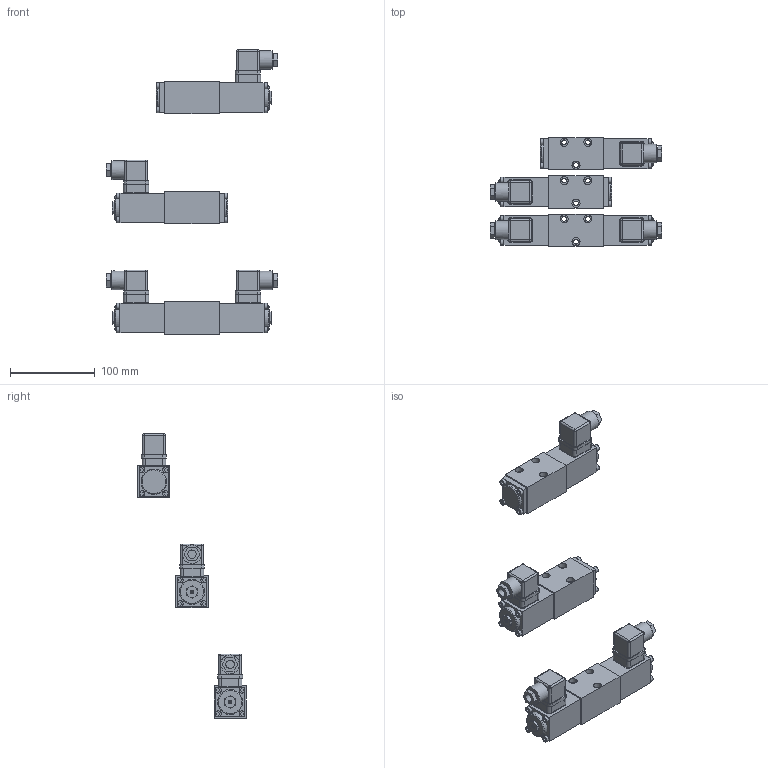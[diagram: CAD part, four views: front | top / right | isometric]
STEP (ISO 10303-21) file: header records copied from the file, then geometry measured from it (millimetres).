
FILE_DESCRIPTION(('Bauteilbeschreibung','HiCAD-Model','HiCAD-STEP-TRANSLATION','Bauteilbeschreibung'),'2;1');
FILE_NAME('D:/BPW_4_4.STP','2006-08-21T10:13:54+00:00',('Konstrukteur'),('Konstrukteur Firma GmbH'),'HiCAD3 V1210 STEP 1.6.2005','HiCAD3 V1210','confidential');
FILE_SCHEMA(('AUTOMOTIVE_DESIGN { 1 2 10303 214 0 1 1 1 }'));
Length unit declared in the file: millimetre
Products named in the file (72): BPW_4_4; BPW_4D4  ; A693E5FB; A837746D; IN6KTM4; IN6KTM40; IN6KTM41; IN6KTM42; IN6KTM43; IN6KTM44; IN6KTM45; IN6KTM46; IN6KTM47; IN6KTM48; A1D11AE3; A86115F3; A2DC75BC; CA9517B3; CA9517B30; DICHTUNG; A1D11AE30; A86115F30; A2DC75BC0; CA9517B31; CA9517B32; DICHTUNG0; D82DEE49; D82DEE490; BPWS4Z41A; EB87732A; A837746D0; IN6KTM49; IN6KTM410; IN6KTM411; IN6KTM412; IN6KTM413; A1D11AE31; A86115F31; A2DC75BC1; CA9517B33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
Assembly tree (71 placements, depth 6):
  BPW_4_4
    BPW_4D4  
      A693E5FB
        A837746D
        IN6KTM4
          IN6KTM40
          IN6KTM41
          IN6KTM42
          IN6KTM43
        IN6KTM44
          IN6KTM45
          IN6KTM46
          IN6KTM47
          IN6KTM48
        A1D11AE3
          A86115F3
          A2DC75BC
          CA9517B3
          CA9517B30
            DICHTUNG
        A1D11AE30
          A86115F30
          A2DC75BC0
          CA9517B31
          CA9517B32
            DICHTUNG0
        D82DEE49
        D82DEE490
    BPWS4Z41A
      EB87732A
        A837746D0
        IN6KTM49
          IN6KTM410
          IN6KTM411
          IN6KTM412
          IN6KTM413
        A1D11AE31
          A86115F31
          A2DC75BC1
          CA9517B33
          CA9517B34
            DICHTUNG1
        D82DEE491
        AA75327F
        AA75327F0
          IN6KTM414
            IN6KTM415
            IN6KTM416
            IN6KTM417
            IN6KTM418
    BPWS4Z41B
      C8811635
        A837746D1
        IN6KTM419
          IN6KTM420
          IN6KTM421
          IN6KTM422
          IN6KTM423
        A1D11AE32
          A86115F32
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Bounding box: 203 x 128 x 335.5 mm (x, y, z)
Volume: 691797.1 mm3; surface area: 165845.3 mm2
Topology: 61 solids, 61 shells, 1041 faces, 2366 edges, 1577 vertices
Faces by surface type: plane 652, cylinder 303, cone 62, sphere 16, torus 8
Full cylindrical faces by diameter (mm): 1.5 x12, 2.5 x4, 2.9 x4, 3 x12, 4 x28, 4.2 x4, 4.5 x24, 5.5 x9, 6.8 x4, 7 x24, 7.5 x4, 8 x8, 8.5 x15, 9.5 x9, 10 x4, 12 x4, 12.5 x4, 15 x4, 22 x4, 26 x4, 29.5 x4, 30 x2
Entity records: 49827 total; most frequent: CARTESIAN_POINT 7063, DIRECTION 4966, ORIENTED_EDGE 4056, COLOUR_RGB 3118, PRESENTATION_STYLE_ASSIGNMENT 3118, OVER_RIDING_STYLED_ITEM 3069, CURVE_STYLE 2028, DRAUGHTING_PRE_DEFINED_CURVE_FONT 2028
